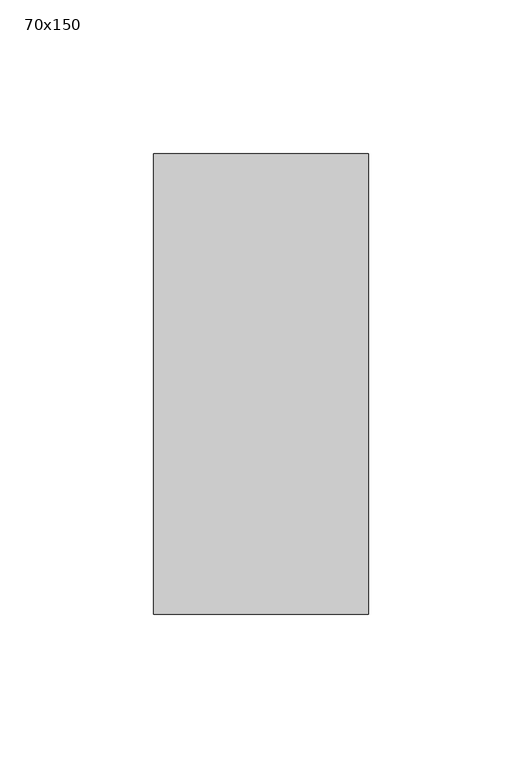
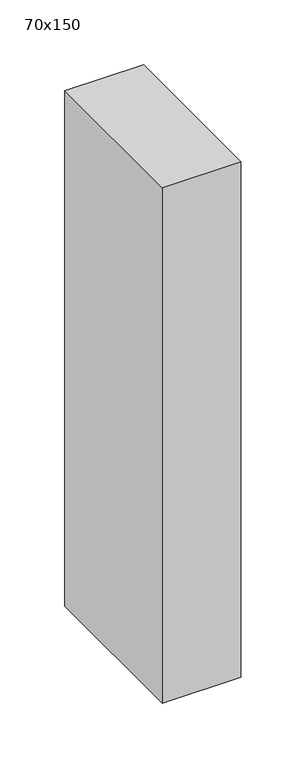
"""IFC4 building model written with IfcOpenShell, lengths in millimetres: member geometry, 長方形のマリオン : 70x150."""

import ifcopenshell
import ifcopenshell.guid

model = None  # the IFC model being written
_history = None  # IfcOwnerHistory: only IFC2X3 demands one
_inside = {}  # id of a spatial element -> (the spatial element, [elements in it])
_under = {}  # id of a project, library or spatial element -> (it, [spatial elements below it])
_declared = {}  # id of a project -> (the project, [libraries it declares])
_typed = {}  # id of a type object -> (the type object, [elements of that type])
_made_of = {}  # id of a material, layer set ... -> (it, [elements and type objects made of it])


def new_model(schema):
    """Start an empty IFC model of exactly this schema.

    Asked for "IFC4X3", IfcOpenShell would pick the latest addendum, in which some entities
    have other attributes; the version numbers below select the first issue.
    IFC2X3 requires an IfcOwnerHistory on every rooted entity: one is made here for all.
    """
    global model, _history
    if schema == "IFC4X3":
        model = ifcopenshell.file(schema_version=(4, 3, 0, 0))
    else:
        model = ifcopenshell.file(schema=schema)
    _inside.clear()
    _under.clear()
    _declared.clear()
    _typed.clear()
    _made_of.clear()
    _history = None
    if model.schema == "IFC2X3":
        org = make("IfcOrganization", Name="unknown")
        user = make(
            "IfcPersonAndOrganization",
            ThePerson=make("IfcPerson", FamilyName="unknown"),
            TheOrganization=org,
        )
        app = make(
            "IfcApplication",
            ApplicationDeveloper=org,
            Version="unknown",
            ApplicationFullName="unknown",
            ApplicationIdentifier="unknown",
        )
        _history = make(
            "IfcOwnerHistory",
            OwningUser=user,
            OwningApplication=app,
            ChangeAction="ADDED",
            CreationDate=0,
        )
    return model


def make(cls, **values):
    """One entity of the class cls with the attributes given. An attribute that is None is left unset."""
    return model.create_entity(
        cls, **{name: value for name, value in values.items() if value is not None}
    )


def rooted(cls, **values):
    """An entity with a GlobalId (a new one), such as an element, a storey or a relation."""
    return make(cls, GlobalId=ifcopenshell.guid.new(), OwnerHistory=_history, **values)


def si_unit(unit_type, name, prefix=None):
    """IfcSIUnit, for example si_unit("LENGTHUNIT", "METRE", prefix="MILLI")."""
    return make("IfcSIUnit", UnitType=unit_type, Prefix=prefix, Name=name)


def assignment(units):
    """IfcUnitAssignment: the units of a project."""
    return None if units is None else make("IfcUnitAssignment", Units=units)


def point(xyz):
    """IfcCartesianPoint."""
    return None if xyz is None else make("IfcCartesianPoint", Coordinates=xyz)


def direction(xyz):
    """IfcDirection."""
    return None if xyz is None else make("IfcDirection", DirectionRatios=xyz)


def frame(location, z_axis=None, x_axis=None):
    """IfcAxis2Placement3D, a coordinate frame: its origin and axes. An axis left out is left unset."""
    return make(
        "IfcAxis2Placement3D",
        Location=point(location),
        Axis=direction(z_axis),
        RefDirection=direction(x_axis),
    )


def origin():
    """The frame at (0, 0, 0) with its axes left unset."""
    return frame((0.0, 0.0, 0.0))


def place(relative_to, where):
    """IfcLocalPlacement: puts the frame where relative to a parent placement (None: the world)."""
    return make(
        "IfcLocalPlacement", PlacementRelTo=relative_to, RelativePlacement=where
    )


def context(
    kind, dimensions, precision=None, world=None, true_north=None, identifier=None
):
    """IfcGeometricRepresentationContext, for example the 3D "Model" context."""
    return make(
        "IfcGeometricRepresentationContext",
        ContextIdentifier=identifier,
        ContextType=kind,
        CoordinateSpaceDimension=dimensions,
        Precision=precision,
        WorldCoordinateSystem=world,
        TrueNorth=true_north,
    )


def project(units=None, contexts=None):
    """IfcProject with its units and contexts."""
    return rooted(
        "IfcProject",
        Name="project",
        RepresentationContexts=contexts,
        UnitsInContext=assignment(units),
    )


def spatial(cls, under=None, at=None, **own):
    """A site, building, storey or space (cls), placed at a placement, below another one or the project."""
    s = rooted(cls, ObjectPlacement=at, **own)
    if under is not None:
        _under.setdefault(under.id(), (under, []))[1].append(s)
    return s


def polyline(points):
    """IfcPolyline through the points."""
    return make("IfcPolyline", Points=[point(p) for p in points])


def outline(outer, holes=None, kind="AREA"):
    """IfcArbitraryClosedProfileDef: a profile drawn as a closed curve; with holes, ...WithVoids."""
    if holes is None:
        return make("IfcArbitraryClosedProfileDef", ProfileType=kind, OuterCurve=outer)
    return make(
        "IfcArbitraryProfileDefWithVoids",
        ProfileType=kind,
        OuterCurve=outer,
        InnerCurves=holes,
    )


def extrude(swept, where, along, depth):
    """IfcExtrudedAreaSolid: the profile swept, set in the frame where, extruded along a direction by depth."""
    return make(
        "IfcExtrudedAreaSolid",
        SweptArea=swept,
        Position=where,
        ExtrudedDirection=direction(along),
        Depth=depth,
    )


def shape(context_of_items, identifier, shape_type, items):
    """IfcShapeRepresentation: the items that make up one representation, for example the "Body"."""
    return make(
        "IfcShapeRepresentation",
        ContextOfItems=context_of_items,
        RepresentationIdentifier=identifier,
        RepresentationType=shape_type,
        Items=items,
    )


def source(mapping_origin, context_of_items, identifier, shape_type, items):
    """IfcRepresentationMap: a shape defined once, which mapped items show again and again."""
    return make(
        "IfcRepresentationMap",
        MappingOrigin=mapping_origin,
        MappedRepresentation=shape(context_of_items, identifier, shape_type, items),
    )


def transform(
    local_origin,
    x_axis=None,
    y_axis=None,
    z_axis=None,
    scale=None,
    scale2=None,
    scale3=None,
    uniform=True,
):
    """IfcCartesianTransformationOperator3D, or its non-uniform kind. x_axis, y_axis, z_axis: its Axis1, 2, 3."""
    if uniform:
        return make(
            "IfcCartesianTransformationOperator3D",
            Axis1=direction(x_axis),
            Axis2=direction(y_axis),
            LocalOrigin=point(local_origin),
            Scale=scale,
            Axis3=direction(z_axis),
        )
    return make(
        "IfcCartesianTransformationOperator3DnonUniform",
        Axis1=direction(x_axis),
        Axis2=direction(y_axis),
        LocalOrigin=point(local_origin),
        Scale=scale,
        Axis3=direction(z_axis),
        Scale2=scale2,
        Scale3=scale3,
    )


def mapped(mapping_source, mapping_target):
    """IfcMappedItem: shows the shape of a source again, moved by a transform."""
    return make(
        "IfcMappedItem", MappingSource=mapping_source, MappingTarget=mapping_target
    )


def made_of(thing, what):
    """Note that an element or type object is made of a material, layer set ...; save() writes the relation."""
    if what is not None:
        _made_of.setdefault(what.id(), (what, []))[1].append(thing)
    return thing


def element(
    cls,
    number,
    at=None,
    inside=None,
    cuts=None,
    type_object=None,
    material=None,
    context=None,
    identifier="Body",
    shape_type=None,
    held_by="IfcProductDefinitionShape",
    body=None,
    shapes=None,
    **own,
):
    """One element of the class cls, such as IfcWall. Its Tag is "e" and its number.

    at: its placement. inside: the storey or other place that contains it. cuts: it is an
    opening in that element (IfcRelVoidsElement). A single representation is given by context,
    identifier, shape_type and body (its items); several are given by shapes. held_by: the class
    of the entity that holds the representations. save() writes the other relations.
    """
    e = rooted(cls, Tag="e%d" % number, ObjectPlacement=at, **own)
    if body is not None:
        shapes = [shape(context, identifier, shape_type, body)]
    if shapes is not None:
        e.Representation = make(held_by, Representations=shapes)
    if inside is not None:
        _inside.setdefault(inside.id(), (inside, []))[1].append(e)
    if cuts is not None:
        rooted(
            "IfcRelVoidsElement", RelatingBuildingElement=cuts, RelatedOpeningElement=e
        )
    if type_object is not None:
        _typed.setdefault(type_object.id(), (type_object, []))[1].append(e)
    return made_of(e, material)


def aggregate(whole, parts):
    """IfcRelAggregates: a whole, such as a stair, and the parts it consists of."""
    return rooted("IfcRelAggregates", RelatingObject=whole, RelatedObjects=parts)


def save(model, path):
    """Write the relations noted so far, then the file.

    IfcRelAggregates (storeys below a building ...), IfcRelContainedInSpatialStructure (elements
    in a storey), IfcRelDefinesByType, IfcRelAssociatesMaterial and IfcRelDeclares: one each for
    every whole, place, type object, material and project.
    """
    for whole, parts in _under.values():
        aggregate(whole, parts)
    for where, things in _inside.values():
        rooted(
            "IfcRelContainedInSpatialStructure",
            RelatedElements=things,
            RelatingStructure=where,
        )
    for kind, things in _typed.values():
        rooted("IfcRelDefinesByType", RelatedObjects=things, RelatingType=kind)
    for what, things in _made_of.values():
        rooted("IfcRelAssociatesMaterial", RelatedObjects=things, RelatingMaterial=what)
    for by, libraries in _declared.values():
        rooted("IfcRelDeclares", RelatingContext=by, RelatedDefinitions=libraries)
    model.write(path)


def member_70x150_dd29d753(model_context):
    return source(origin(), model_context, "Body", "SweptSolid", [
        extrude(outline(polyline([(35.0, 75.0), (35.0, -75.0), (-35.0, -75.0), (-35.0, 75.0), (35.0, 75.0)])), frame((0.0, 0.0, -485.0), z_axis=(0.0, 0.0, 1.0), x_axis=(1.0, 0.0, 0.0)), (0.0, 0.0, 1.0), 485.0),
    ])


if __name__ == "__main__":
    model = new_model("IFC4")
    model_context = context("Model", 3, world=origin())
    ifc_project = project(units=[si_unit("LENGTHUNIT", "METRE", prefix="MILLI")], contexts=[model_context])
    site = spatial("IfcSite", under=ifc_project)
    building = spatial("IfcBuilding", under=site)
    placement = place(None, origin())
    member_70x150_shape = member_70x150_dd29d753(model_context)
    element("IfcMember", 1, ObjectType="長方形のマリオン : 70x150", at=placement, inside=building, context=model_context, shape_type="MappedRepresentation", body=[
        mapped(member_70x150_shape, transform((0.0, 0.0, 0.0), x_axis=(1.0, 0.0, 0.0), y_axis=(0.0, 1.0, 0.0), z_axis=(0.0, 0.0, 1.0))),
    ])
    save(model, "model.ifc")
